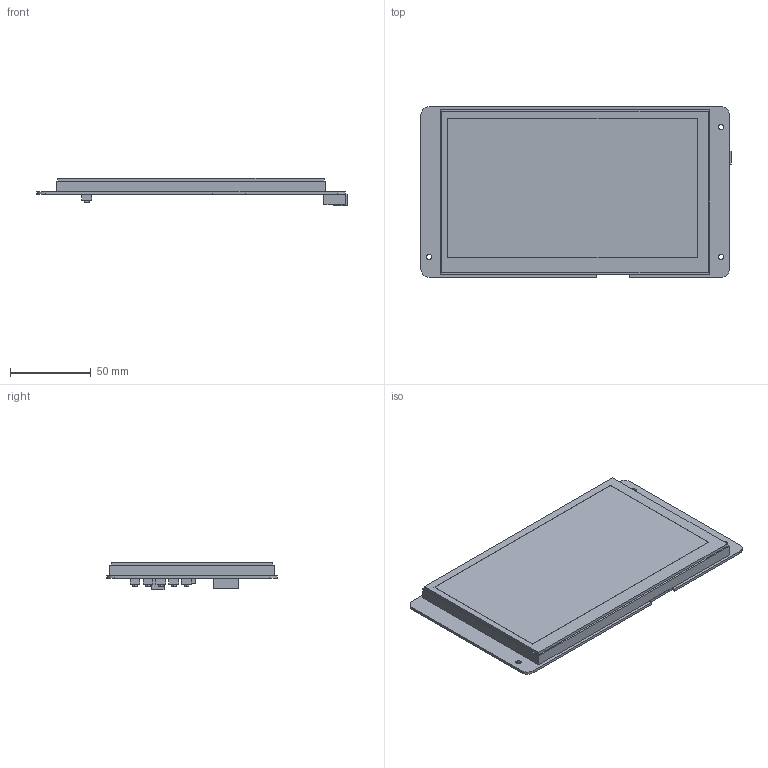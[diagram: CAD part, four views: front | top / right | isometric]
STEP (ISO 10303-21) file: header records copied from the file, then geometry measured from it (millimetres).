
FILE_DESCRIPTION((''),'2;1');
FILE_NAME('HDW070-DPL001','2025-01-16T',('Administrator'),(''),'PRO/ENGINEER BY PARAMETRIC TECHNOLOGY CORPORATION, 2014320','PRO/ENGINEER BY PARAMETRIC TECHNOLOGY CORPORATION, 2014320','');
FILE_SCHEMA(('AUTOMOTIVE_DESIGN_CC2 { 1 2 10303 214 -1 1 5 2 }'));
Length unit declared in the file: millimetre
Products named in the file (1): HDW070-DPL001
Bounding box: 191.5 x 105.41 x 17.07 mm (x, y, z)
Volume: 175454.4 mm3; surface area: 46743.5 mm2
Topology: 1 solids, 1 shells, 92 faces, 224 edges, 148 vertices
Faces by surface type: plane 72, cylinder 20
Entity records: 2741 total; most frequent: CARTESIAN_POINT 464, DIRECTION 448, ORIENTED_EDGE 448, EDGE_CURVE 224, VECTOR 184, LINE 184, VERTEX_POINT 148, AXIS2_PLACEMENT_3D 132
